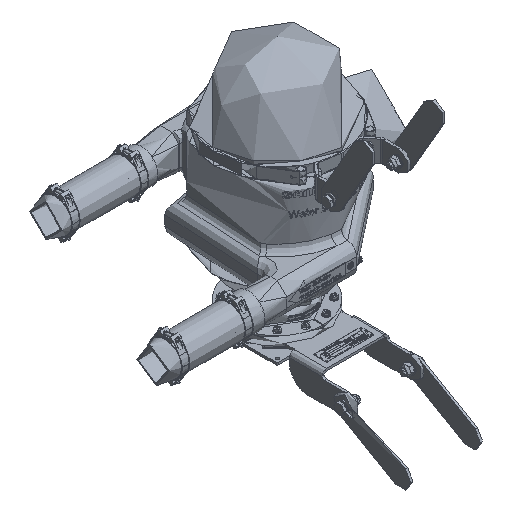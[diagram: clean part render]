
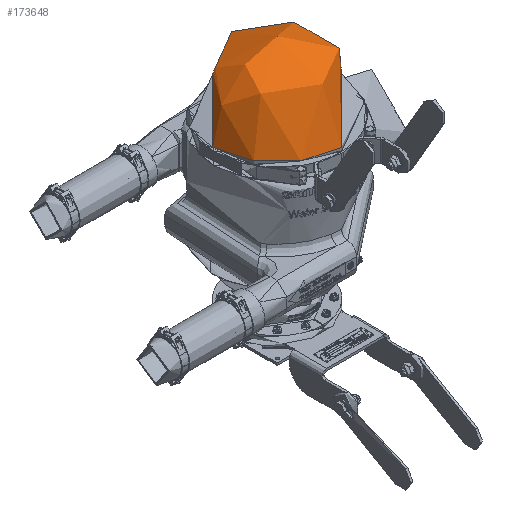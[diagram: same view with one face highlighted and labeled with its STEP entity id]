
A CAD part, isometric view. The second image highlights one B-rep face of the part: STEP entity #173648.
In plain terms, the highlighted spherical face has radius 168 mm.
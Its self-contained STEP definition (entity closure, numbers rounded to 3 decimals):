
#718=SPHERICAL_SURFACE('',#182806,168.);
#12648=CIRCLE('',#182802,168.);
#12651=CIRCLE('',#182805,168.);
#12652=CIRCLE('',#182807,168.);
#18678=FACE_OUTER_BOUND('',#28617,.T.);
#28617=EDGE_LOOP('',(#137004,#137005,#137006,#137007));
#78101=VERTEX_POINT('',#299179);
#78102=VERTEX_POINT('',#299180);
#78105=VERTEX_POINT('',#299189);
#98988=EDGE_CURVE('',#78101,#78102,#12648,.T.);
#98992=EDGE_CURVE('',#78102,#78101,#12651,.T.);
#98993=EDGE_CURVE('',#78105,#78102,#12652,.T.);
#137004=ORIENTED_EDGE('',*,*,#98988,.T.);
#137005=ORIENTED_EDGE('',*,*,#98993,.F.);
#137006=ORIENTED_EDGE('',*,*,#98993,.T.);
#137007=ORIENTED_EDGE('',*,*,#98992,.T.);
#173648=ADVANCED_FACE('',(#18678),#718,.T.);
#182802=AXIS2_PLACEMENT_3D('',#299181,#204164,#204165);
#182805=AXIS2_PLACEMENT_3D('',#299187,#204171,#204172);
#182806=AXIS2_PLACEMENT_3D('',#299188,#204173,#204174);
#182807=AXIS2_PLACEMENT_3D('',#299190,#204175,#204176);
#204164=DIRECTION('center_axis',(0.,0.,
1.));
#204165=DIRECTION('ref_axis',(0.,-1.,0.));
#204171=DIRECTION('center_axis',(0.,0.,
1.));
#204172=DIRECTION('ref_axis',(0.,-1.,0.));
#204173=DIRECTION('center_axis',(0.,0.,
1.));
#204174=DIRECTION('ref_axis',(1.,0.,0.));
#204175=DIRECTION('center_axis',(0.,-1.,0.));
#204176=DIRECTION('ref_axis',(-1.,0.,0.));
#299179=CARTESIAN_POINT('',(0.,-168.,26.));
#299180=CARTESIAN_POINT('',(-168.,0.,26.));
#299181=CARTESIAN_POINT('Origin',(0.,0.,
26.));
#299187=CARTESIAN_POINT('Origin',(0.,0.,
26.));
#299188=CARTESIAN_POINT('Origin',(0.,0.,
26.));
#299189=CARTESIAN_POINT('',(0.,0.,
194.));
#299190=CARTESIAN_POINT('Origin',(0.,0.,
26.));
